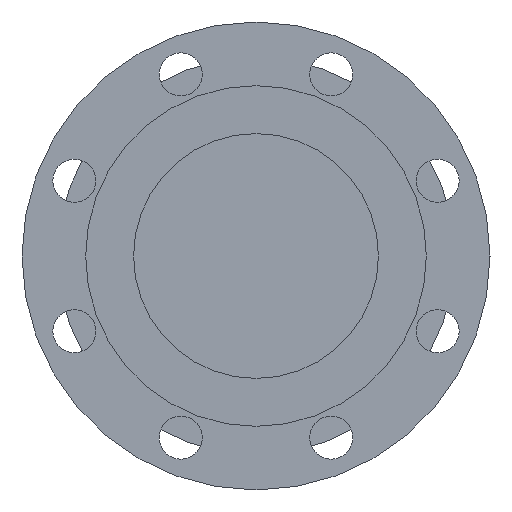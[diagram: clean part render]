
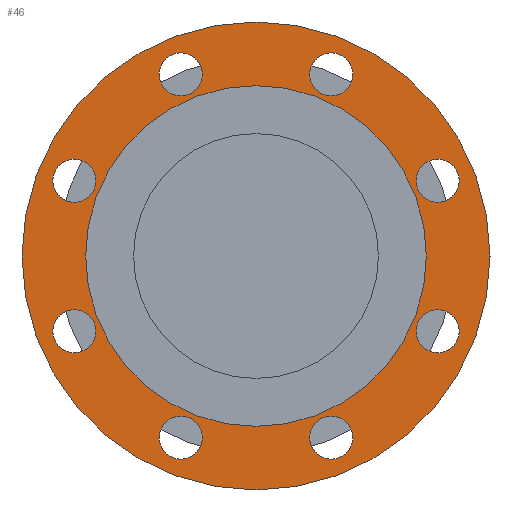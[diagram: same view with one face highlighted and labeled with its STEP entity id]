
A CAD part, left-side view. The second image highlights one B-rep face of the part: STEP entity #46.
In plain terms, the highlighted planar face has unit normal (-1, 0, 0).
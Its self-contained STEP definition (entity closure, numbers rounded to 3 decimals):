
#46=ADVANCED_FACE('',(#187,#188,#189,#190,#191,#192,#193,#194,#195,#196),#186,.T.);
#186=PLANE('',#961);
#187=FACE_OUTER_BOUND('',#962,.T.);
#188=FACE_BOUND('',#963,.T.);
#189=FACE_BOUND('',#964,.T.);
#190=FACE_BOUND('',#965,.T.);
#191=FACE_BOUND('',#966,.T.);
#192=FACE_BOUND('',#967,.T.);
#193=FACE_BOUND('',#968,.T.);
#194=FACE_BOUND('',#969,.T.);
#195=FACE_BOUND('',#970,.T.);
#196=FACE_BOUND('',#971,.T.);
#958=CARTESIAN_POINT('',(1.5,-226.506,-260.));
#959=DIRECTION('',(-1.,0.,0.));
#960=DIRECTION('',(0.,0.,1.));
#961=AXIS2_PLACEMENT_3D('',#958,#959,#960);
#962=EDGE_LOOP('',(#1381,#1382));
#963=EDGE_LOOP('',(#1383,#1384));
#964=EDGE_LOOP('',(#1385,#1386));
#965=EDGE_LOOP('',(#1387,#1388));
#966=EDGE_LOOP('',(#1389,#1390));
#967=EDGE_LOOP('',(#1391,#1392));
#968=EDGE_LOOP('',(#1393,#1394));
#969=EDGE_LOOP('',(#1395,#1396));
#970=EDGE_LOOP('',(#1397,#1398));
#971=EDGE_LOOP('',(#1399,#1400));
#1381=ORIENTED_EDGE('',*,*,#1769,.T.);
#1382=ORIENTED_EDGE('',*,*,#1770,.T.);
#1383=ORIENTED_EDGE('',*,*,#1771,.F.);
#1384=ORIENTED_EDGE('',*,*,#1772,.F.);
#1385=ORIENTED_EDGE('',*,*,#1773,.F.);
#1386=ORIENTED_EDGE('',*,*,#1774,.F.);
#1387=ORIENTED_EDGE('',*,*,#1775,.F.);
#1388=ORIENTED_EDGE('',*,*,#1776,.F.);
#1389=ORIENTED_EDGE('',*,*,#1777,.F.);
#1390=ORIENTED_EDGE('',*,*,#1778,.F.);
#1391=ORIENTED_EDGE('',*,*,#1779,.F.);
#1392=ORIENTED_EDGE('',*,*,#1780,.F.);
#1393=ORIENTED_EDGE('',*,*,#1781,.F.);
#1394=ORIENTED_EDGE('',*,*,#1782,.F.);
#1395=ORIENTED_EDGE('',*,*,#1783,.F.);
#1396=ORIENTED_EDGE('',*,*,#1784,.F.);
#1397=ORIENTED_EDGE('',*,*,#1785,.F.);
#1398=ORIENTED_EDGE('',*,*,#1786,.F.);
#1399=ORIENTED_EDGE('',*,*,#1787,.F.);
#1400=ORIENTED_EDGE('',*,*,#1788,.F.);
#1769=EDGE_CURVE('',#2209,#2210,#2211,.T.);
#1770=EDGE_CURVE('',#2210,#2209,#2217,.T.);
#1771=EDGE_CURVE('',#2223,#2224,#2225,.T.);
#1772=EDGE_CURVE('',#2224,#2223,#2231,.T.);
#1773=EDGE_CURVE('',#2237,#2238,#2239,.T.);
#1774=EDGE_CURVE('',#2238,#2237,#2245,.T.);
#1775=EDGE_CURVE('',#2251,#2252,#2253,.T.);
#1776=EDGE_CURVE('',#2252,#2251,#2259,.T.);
#1777=EDGE_CURVE('',#2265,#2266,#2267,.T.);
#1778=EDGE_CURVE('',#2266,#2265,#2273,.T.);
#1779=EDGE_CURVE('',#2279,#2280,#2281,.T.);
#1780=EDGE_CURVE('',#2280,#2279,#2287,.T.);
#1781=EDGE_CURVE('',#2293,#2294,#2295,.T.);
#1782=EDGE_CURVE('',#2294,#2293,#2301,.T.);
#1783=EDGE_CURVE('',#2307,#2308,#2309,.T.);
#1784=EDGE_CURVE('',#2308,#2307,#2315,.T.);
#1785=EDGE_CURVE('',#2321,#2322,#2323,.T.);
#1786=EDGE_CURVE('',#2322,#2321,#2329,.T.);
#1787=EDGE_CURVE('',#2335,#2336,#2337,.T.);
#1788=EDGE_CURVE('',#2336,#2335,#2343,.T.);
#2209=VERTEX_POINT('',#3408);
#2210=VERTEX_POINT('',#3409);
#2211=CIRCLE('',#3413,125.);
#2217=CIRCLE('',#3417,125.);
#2223=VERTEX_POINT('',#3418);
#2224=VERTEX_POINT('',#3419);
#2225=CIRCLE('',#3423,11.5);
#2231=CIRCLE('',#3427,11.5);
#2237=VERTEX_POINT('',#3428);
#2238=VERTEX_POINT('',#3429);
#2239=CIRCLE('',#3433,11.5);
#2245=CIRCLE('',#3437,11.5);
#2251=VERTEX_POINT('',#3438);
#2252=VERTEX_POINT('',#3439);
#2253=CIRCLE('',#3443,11.5);
#2259=CIRCLE('',#3447,11.5);
#2265=VERTEX_POINT('',#3448);
#2266=VERTEX_POINT('',#3449);
#2267=CIRCLE('',#3453,11.5);
#2273=CIRCLE('',#3457,11.5);
#2279=VERTEX_POINT('',#3458);
#2280=VERTEX_POINT('',#3459);
#2281=CIRCLE('',#3463,11.5);
#2287=CIRCLE('',#3467,11.5);
#2293=VERTEX_POINT('',#3468);
#2294=VERTEX_POINT('',#3469);
#2295=CIRCLE('',#3473,11.5);
#2301=CIRCLE('',#3477,11.5);
#2307=VERTEX_POINT('',#3478);
#2308=VERTEX_POINT('',#3479);
#2309=CIRCLE('',#3483,11.5);
#2315=CIRCLE('',#3487,11.5);
#2321=VERTEX_POINT('',#3488);
#2322=VERTEX_POINT('',#3489);
#2323=CIRCLE('',#3493,91.);
#2329=CIRCLE('',#3497,91.);
#2335=VERTEX_POINT('',#3498);
#2336=VERTEX_POINT('',#3499);
#2337=CIRCLE('',#3503,11.5);
#2343=CIRCLE('',#3507,11.5);
#3408=CARTESIAN_POINT('',(1.5,0.,125.));
#3409=CARTESIAN_POINT('',(1.5,0.,-125.));
#3410=CARTESIAN_POINT('',(1.5,0.,0.));
#3411=DIRECTION('',(-1.,0.,0.));
#3412=DIRECTION('',(0.,0.,1.));
#3413=AXIS2_PLACEMENT_3D('',#3410,#3411,#3412);
#3414=CARTESIAN_POINT('',(1.5,0.,0.));
#3415=DIRECTION('',(-1.,0.,0.));
#3416=DIRECTION('',(0.,0.,1.));
#3417=AXIS2_PLACEMENT_3D('',#3414,#3415,#3416);
#3418=CARTESIAN_POINT('',(1.5,97.007,-28.682));
#3419=CARTESIAN_POINT('',(1.5,97.007,-51.682));
#3420=CARTESIAN_POINT('',(1.5,97.007,-40.182));
#3421=DIRECTION('',(-1.,0.,0.));
#3422=DIRECTION('',(0.,0.,-1.));
#3423=AXIS2_PLACEMENT_3D('',#3420,#3421,#3422);
#3424=CARTESIAN_POINT('',(1.5,97.007,-40.182));
#3425=DIRECTION('',(-1.,0.,0.));
#3426=DIRECTION('',(0.,0.,-1.));
#3427=AXIS2_PLACEMENT_3D('',#3424,#3425,#3426);
#3428=CARTESIAN_POINT('',(1.5,40.181,-85.508));
#3429=CARTESIAN_POINT('',(1.5,40.181,-108.508));
#3430=CARTESIAN_POINT('',(1.5,40.181,-97.008));
#3431=DIRECTION('',(-1.,0.,0.));
#3432=DIRECTION('',(0.,0.,-1.));
#3433=AXIS2_PLACEMENT_3D('',#3430,#3431,#3432);
#3434=CARTESIAN_POINT('',(1.5,40.181,-97.008));
#3435=DIRECTION('',(-1.,0.,0.));
#3436=DIRECTION('',(0.,0.,-1.));
#3437=AXIS2_PLACEMENT_3D('',#3434,#3435,#3436);
#3438=CARTESIAN_POINT('',(1.5,-40.182,-85.507));
#3439=CARTESIAN_POINT('',(1.5,-40.182,-108.507));
#3440=CARTESIAN_POINT('',(1.5,-40.182,-97.007));
#3441=DIRECTION('',(-1.,0.,0.));
#3442=DIRECTION('',(0.,0.,-1.));
#3443=AXIS2_PLACEMENT_3D('',#3440,#3441,#3442);
#3444=CARTESIAN_POINT('',(1.5,-40.182,-97.007));
#3445=DIRECTION('',(-1.,0.,0.));
#3446=DIRECTION('',(0.,0.,-1.));
#3447=AXIS2_PLACEMENT_3D('',#3444,#3445,#3446);
#3448=CARTESIAN_POINT('',(1.5,-97.008,-28.681));
#3449=CARTESIAN_POINT('',(1.5,-97.008,-51.681));
#3450=CARTESIAN_POINT('',(1.5,-97.008,-40.181));
#3451=DIRECTION('',(-1.,0.,0.));
#3452=DIRECTION('',(0.,0.,-1.));
#3453=AXIS2_PLACEMENT_3D('',#3450,#3451,#3452);
#3454=CARTESIAN_POINT('',(1.5,-97.008,-40.181));
#3455=DIRECTION('',(-1.,0.,0.));
#3456=DIRECTION('',(0.,0.,-1.));
#3457=AXIS2_PLACEMENT_3D('',#3454,#3455,#3456);
#3458=CARTESIAN_POINT('',(1.5,-97.007,51.682));
#3459=CARTESIAN_POINT('',(1.5,-97.007,28.682));
#3460=CARTESIAN_POINT('',(1.5,-97.007,40.182));
#3461=DIRECTION('',(-1.,0.,0.));
#3462=DIRECTION('',(0.,0.,-1.));
#3463=AXIS2_PLACEMENT_3D('',#3460,#3461,#3462);
#3464=CARTESIAN_POINT('',(1.5,-97.007,40.182));
#3465=DIRECTION('',(-1.,0.,0.));
#3466=DIRECTION('',(0.,0.,-1.));
#3467=AXIS2_PLACEMENT_3D('',#3464,#3465,#3466);
#3468=CARTESIAN_POINT('',(1.5,-40.181,108.508));
#3469=CARTESIAN_POINT('',(1.5,-40.181,85.508));
#3470=CARTESIAN_POINT('',(1.5,-40.181,97.008));
#3471=DIRECTION('',(-1.,0.,0.));
#3472=DIRECTION('',(0.,0.,-1.));
#3473=AXIS2_PLACEMENT_3D('',#3470,#3471,#3472);
#3474=CARTESIAN_POINT('',(1.5,-40.181,97.008));
#3475=DIRECTION('',(-1.,0.,0.));
#3476=DIRECTION('',(0.,0.,-1.));
#3477=AXIS2_PLACEMENT_3D('',#3474,#3475,#3476);
#3478=CARTESIAN_POINT('',(1.5,40.182,108.507));
#3479=CARTESIAN_POINT('',(1.5,40.182,85.507));
#3480=CARTESIAN_POINT('',(1.5,40.182,97.007));
#3481=DIRECTION('',(-1.,0.,0.));
#3482=DIRECTION('',(0.,0.,-1.));
#3483=AXIS2_PLACEMENT_3D('',#3480,#3481,#3482);
#3484=CARTESIAN_POINT('',(1.5,40.182,97.007));
#3485=DIRECTION('',(-1.,0.,0.));
#3486=DIRECTION('',(0.,0.,-1.));
#3487=AXIS2_PLACEMENT_3D('',#3484,#3485,#3486);
#3488=CARTESIAN_POINT('',(1.5,0.,-91.));
#3489=CARTESIAN_POINT('',(1.5,0.,91.));
#3490=CARTESIAN_POINT('',(1.5,0.,0.));
#3491=DIRECTION('',(-1.,0.,0.));
#3492=DIRECTION('',(0.,0.,1.));
#3493=AXIS2_PLACEMENT_3D('',#3490,#3491,#3492);
#3494=CARTESIAN_POINT('',(1.5,0.,0.));
#3495=DIRECTION('',(-1.,0.,0.));
#3496=DIRECTION('',(0.,0.,1.));
#3497=AXIS2_PLACEMENT_3D('',#3494,#3495,#3496);
#3498=CARTESIAN_POINT('',(1.5,97.008,51.681));
#3499=CARTESIAN_POINT('',(1.5,97.008,28.681));
#3500=CARTESIAN_POINT('',(1.5,97.008,40.181));
#3501=DIRECTION('',(-1.,0.,0.));
#3502=DIRECTION('',(0.,0.,-1.));
#3503=AXIS2_PLACEMENT_3D('',#3500,#3501,#3502);
#3504=CARTESIAN_POINT('',(1.5,97.008,40.181));
#3505=DIRECTION('',(-1.,0.,0.));
#3506=DIRECTION('',(0.,0.,-1.));
#3507=AXIS2_PLACEMENT_3D('',#3504,#3505,#3506);
